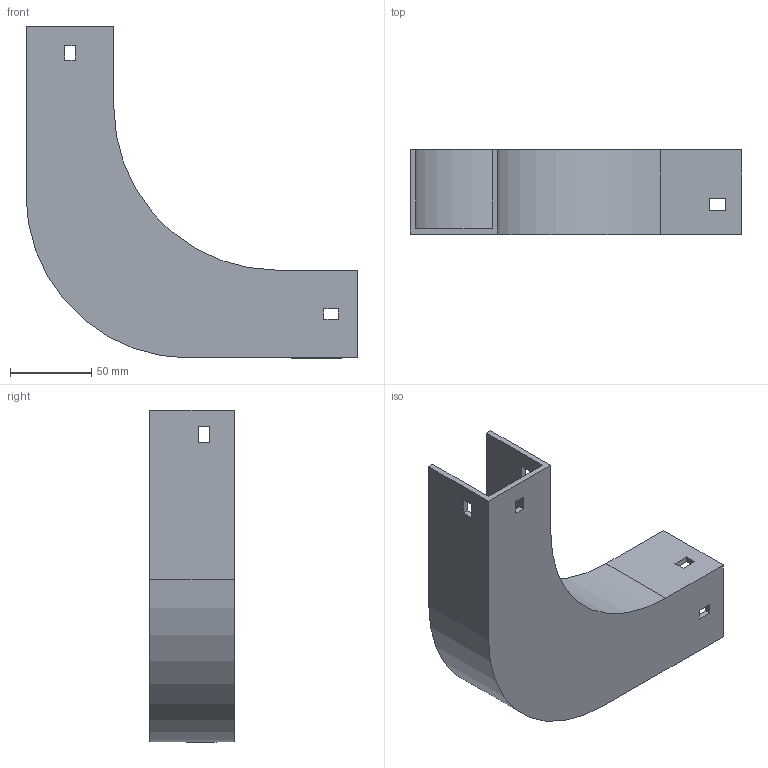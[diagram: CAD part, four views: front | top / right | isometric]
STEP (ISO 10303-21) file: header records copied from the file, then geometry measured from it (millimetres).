
FILE_DESCRIPTION (( 'STEP AP214' ), '1' );
FILE_NAME ('10B1B050.step', '2025-02-21T09:40:20', ( '' ), ( '' ), 'SwSTEP 2.0', 'SolidWorks 2023', '' );
FILE_SCHEMA (( 'AUTOMOTIVE_DESIGN' ));
Length unit declared in the file: millimetre
Products named in the file (1): 10B1B050
Bounding box: 204 x 52 x 204 mm (x, y, z)
Volume: 171128 mm3; surface area: 101715 mm2
Topology: 1 solids, 1 shells, 42 faces, 120 edges, 80 vertices
Faces by surface type: plane 38, cylinder 4
Entity records: 1399 total; most frequent: CARTESIAN_POINT 243, ORIENTED_EDGE 240, DIRECTION 214, EDGE_CURVE 120, VECTOR 112, LINE 112, VERTEX_POINT 80, EDGE_LOOP 54
